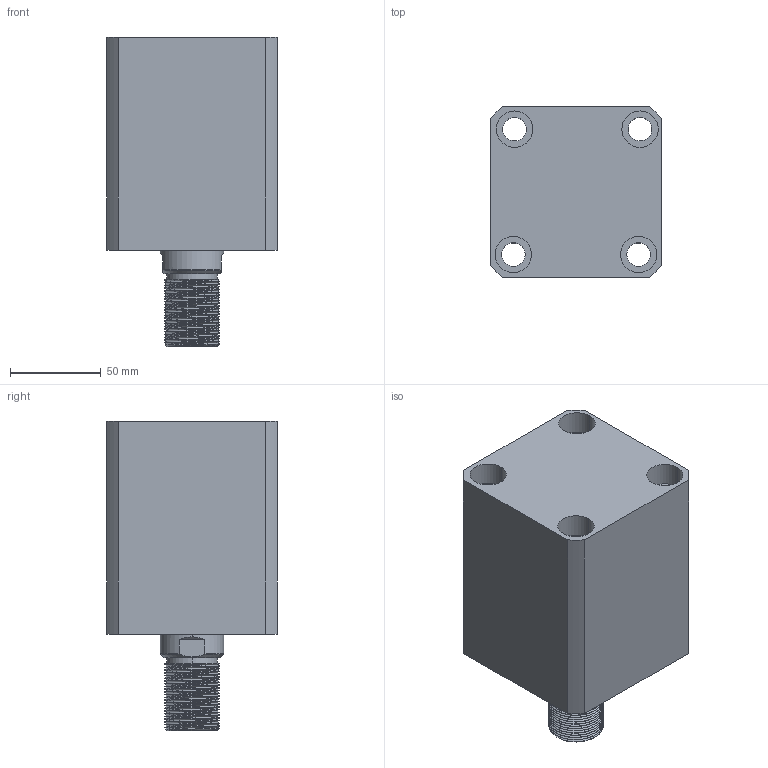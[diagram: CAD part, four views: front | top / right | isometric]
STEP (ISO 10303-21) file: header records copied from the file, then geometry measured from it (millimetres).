
FILE_DESCRIPTION (( 'STEP AP214' ), '1' );
FILE_NAME ('chtb-sdma63x50w_asm.STEP', '2018-05-18T09:22:16', ( 'Windows' ), ( 'Microsoft' ), 'SwSTEP 2.0', 'SolidWorks 2015', '' );
FILE_SCHEMA (( 'AUTOMOTIVE_DESIGN' ));
Length unit declared in the file: millimetre
Products named in the file (4): CHTB-63QG; chtb-sdma63x50w_asm; CHTB-SDMA63X50NBT; CHTB63X50WHSG
Assembly tree (3 placements, depth 2):
  chtb-sdma63x50w_asm
    CHTB-63QG
    CHTB63X50WHSG
    CHTB-SDMA63X50NBT
Bounding box: 94 x 94 x 170 mm (x, y, z)
Volume: 871992.2 mm3; surface area: 150584.9 mm2
Topology: 3 solids, 3 shells, 219 faces, 632 edges, 430 vertices
Faces by surface type: cylinder 156, plane 34, bspline 14, cone 9, torus 6
Entity records: 22297 total; most frequent: CARTESIAN_POINT 17024, ORIENTED_EDGE 1256, DIRECTION 878, EDGE_CURVE 628, VERTEX_POINT 430, AXIS2_PLACEMENT_3D 343, EDGE_LOOP 252, FACE_OUTER_BOUND 219
